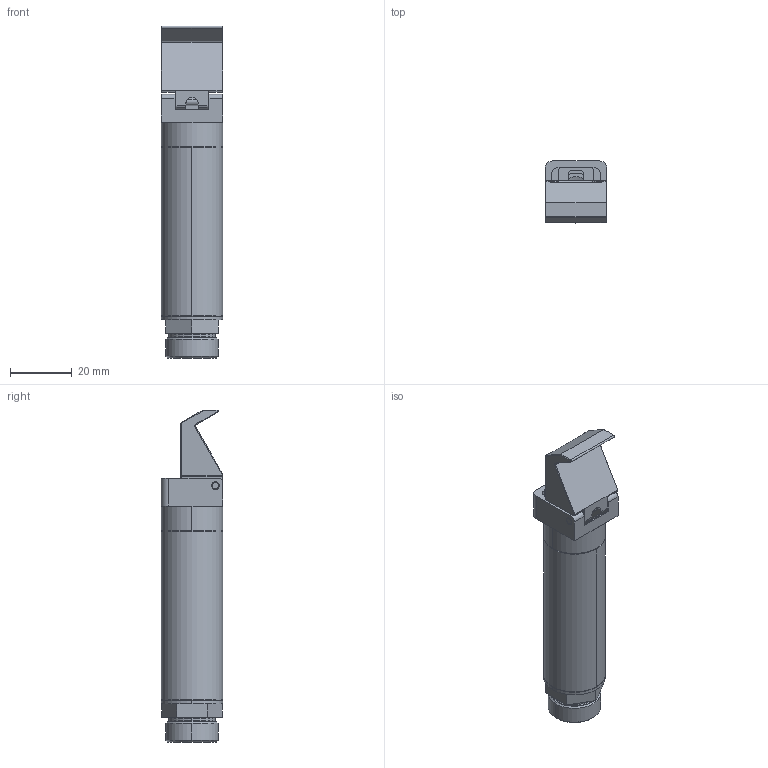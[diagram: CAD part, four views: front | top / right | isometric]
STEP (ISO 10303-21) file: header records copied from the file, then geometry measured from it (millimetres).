
FILE_DESCRIPTION (( 'STEP AP214' ), '1' );
FILE_NAME ('GFA20-35-D2拨指气缸.STEP', '2025-02-20T03:55:25', ( '微软用户' ), ( '微软中国' ), 'SwSTEP 2.0', 'SolidWorks 2018', '' );
FILE_SCHEMA (( 'AUTOMOTIVE_DESIGN' ));
Length unit declared in the file: millimetre
Products named in the file (6): GFA20-35-D2畢硌ァ詰.sldasm-Part-5; GFA20-35-D2畢硌ァ詰.sldasm-Part-4; GFA20-35-D2畢硌ァ詰.sldasm-Part-3; GFA20-35-D2畢硌ァ詰.sldasm-Part-2; GFA20-35-D2畢硌ァ詰.sldasm-Part-1; GFA20-35-D2畢硌ァ詰
Assembly tree (5 placements, depth 2):
  GFA20-35-D2畢硌ァ詰
    GFA20-35-D2畢硌ァ詰.sldasm-Part-1
    GFA20-35-D2畢硌ァ詰.sldasm-Part-2
    GFA20-35-D2畢硌ァ詰.sldasm-Part-3
    GFA20-35-D2畢硌ァ詰.sldasm-Part-4
    GFA20-35-D2畢硌ァ詰.sldasm-Part-5
Bounding box: 20 x 20 x 107.5 mm (x, y, z)
Volume: 18054.3 mm3; surface area: 15006 mm2
Topology: 5 solids, 5 shells, 252 faces, 604 edges, 369 vertices
Faces by surface type: plane 102, cylinder 78, cone 48, torus 22, bspline 2
Entity records: 7888 total; most frequent: CARTESIAN_POINT 1636, DIRECTION 1342, ORIENTED_EDGE 1208, EDGE_CURVE 604, AXIS2_PLACEMENT_3D 503, VERTEX_POINT 369, VECTOR 336, LINE 336
